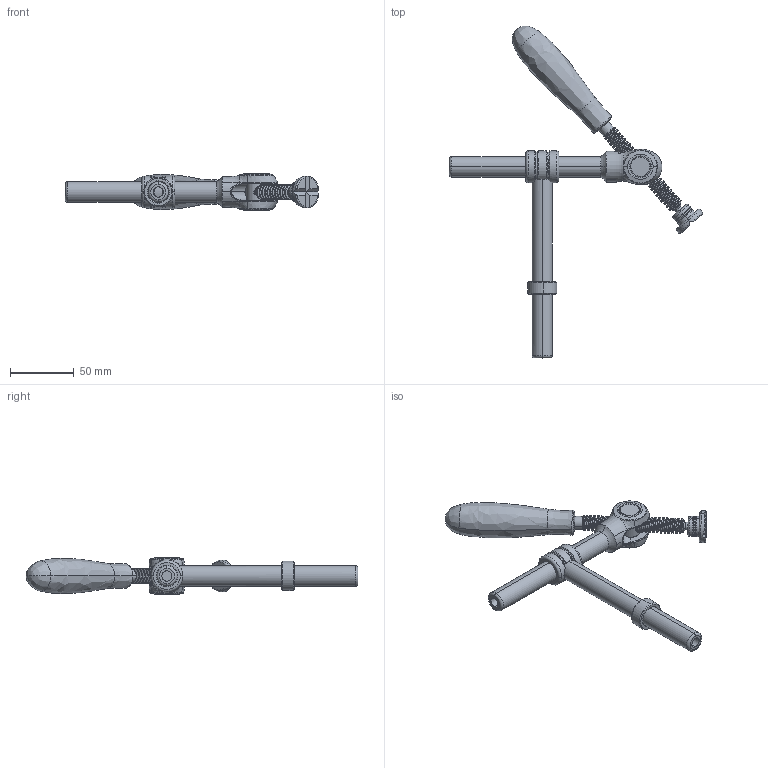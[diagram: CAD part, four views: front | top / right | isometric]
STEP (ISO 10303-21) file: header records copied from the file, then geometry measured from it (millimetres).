
FILE_DESCRIPTION (( 'STEP AP203' ), '1' );
FILE_NAME ('160604.step', '2014-08-11T16:17:49', ( 'User' ), ( '' ), 'SwSTEP 2.0', 'SolidWorks 2014', '' );
FILE_SCHEMA (( 'CONFIG_CONTROL_DESIGN' ));
Length unit declared in the file: millimetre
Products named in the file (13): 160656 Prisma Tr12x3_Foto_Detailliert; 160634.1 Spindel Tr12x3_90^160634.1 Gewindespindel Tr 12x3_90_Foto_Detailliert; 160678 Horizontalstrebe Guss_2_Foto__Detailliert; 160634 Griff_2012_Detailliert; 160604; 160634.1 Gewindespindel Tr 12x3_90_Foto_Detailliert; 160653 Stellring_Foto^160653 Stellring_160604_Detailliert; O-Ring^160653 Stellring_160604; 160653 Stellring^160604_Detailliert; Prisma^160656 Prisma Tr12x3_Foto_Detailliert; 160677_Vert Strebe rund_Foto^160604_Detailliert; O-Ring^160656 Prisma Tr12x3_Foto; 160679 Spindelaufnahme_Foto^160604_Detailliert
Assembly tree (12 placements, depth 3):
  160604
    160677_Vert Strebe rund_Foto^160604_Detailliert
    160679 Spindelaufnahme_Foto^160604_Detailliert
    160634.1 Gewindespindel Tr 12x3_90_Foto_Detailliert
      160634.1 Spindel Tr12x3_90^160634.1 Gewindespindel Tr 12x3_90_Foto_Detailliert
      160634 Griff_2012_Detailliert
    160653 Stellring^160604_Detailliert
      160653 Stellring_Foto^160653 Stellring_160604_Detailliert
      O-Ring^160653 Stellring_160604
    160656 Prisma Tr12x3_Foto_Detailliert
      Prisma^160656 Prisma Tr12x3_Foto_Detailliert
      O-Ring^160656 Prisma Tr12x3_Foto
    160678 Horizontalstrebe Guss_2_Foto__Detailliert
Bounding box: 198.89 x 260.51 x 28.33 mm (x, y, z)
Volume: 121089.6 mm3; surface area: 66411.9 mm2
Topology: 11 solids, 11 shells, 385 faces, 945 edges, 590 vertices
Faces by surface type: cylinder 132, plane 83, torus 70, bspline 61, cone 27, sphere 12
Entity records: 31691 total; most frequent: CARTESIAN_POINT 21899, ORIENTED_EDGE 1876, DIRECTION 1677, EDGE_CURVE 938, AXIS2_PLACEMENT_3D 718, VERTEX_POINT 587, EDGE_LOOP 417, FACE_OUTER_BOUND 385
